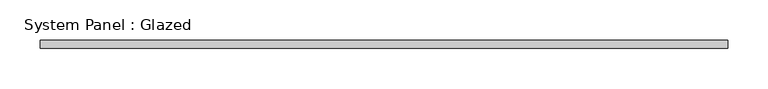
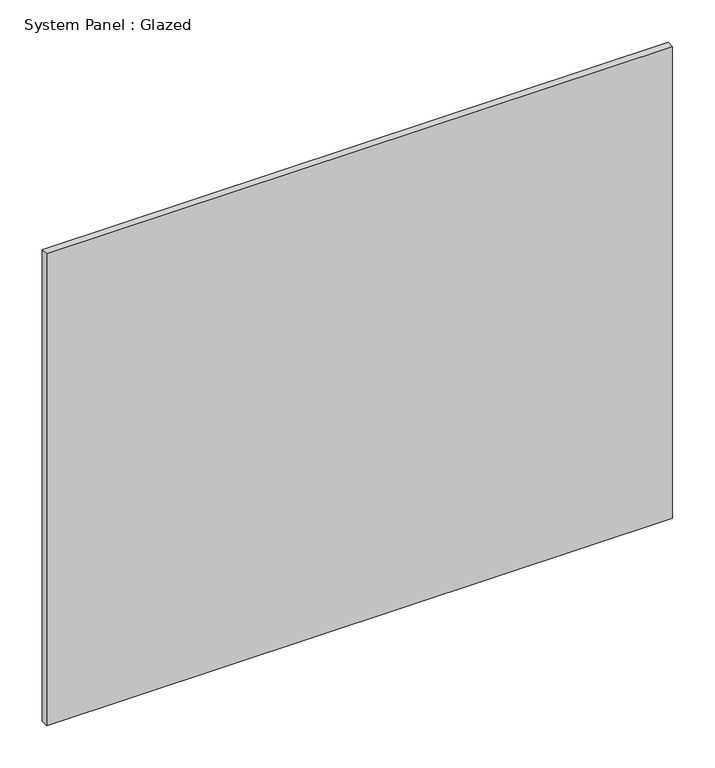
"""IFC4 building model written with IfcOpenShell, lengths in millimetres: plate geometry, System Panel : Glazed."""

from ifc_helpers import new_model, si_unit, origin, origin_with_axes, place, context, project, spatial, polyline, outline, extrude, source, transform, mapped, element, save


def system_panel_glazed_6576376f(model_context):
    return source(origin(), model_context, "Body", "SweptSolid", [
        extrude(outline(polyline([(427.0218271, -5.0), (-427.0218271, -5.0), (-427.0218271, 5.0), (427.0218271, 5.0), (427.0218271, -5.0)])), origin_with_axes(), (0.0, 0.0, 1.0), 680.0),
    ])


if __name__ == "__main__":
    model = new_model("IFC4")
    model_context = context("Model", 3, world=origin())
    ifc_project = project(units=[si_unit("LENGTHUNIT", "METRE", prefix="MILLI")], contexts=[model_context])
    site = spatial("IfcSite", under=ifc_project)
    building = spatial("IfcBuilding", under=site)
    placement = place(None, origin())
    system_panel_glazed_shape = system_panel_glazed_6576376f(model_context)
    element("IfcPlate", 1, ObjectType="System Panel : Glazed", at=placement, inside=building, context=model_context, shape_type="MappedRepresentation", body=[
        mapped(system_panel_glazed_shape, transform((0.0, 0.0, 0.0), x_axis=(1.0, 0.0, 0.0), y_axis=(0.0, 1.0, 0.0), z_axis=(0.0, 0.0, 1.0))),
    ])
    save(model, "model.ifc")
